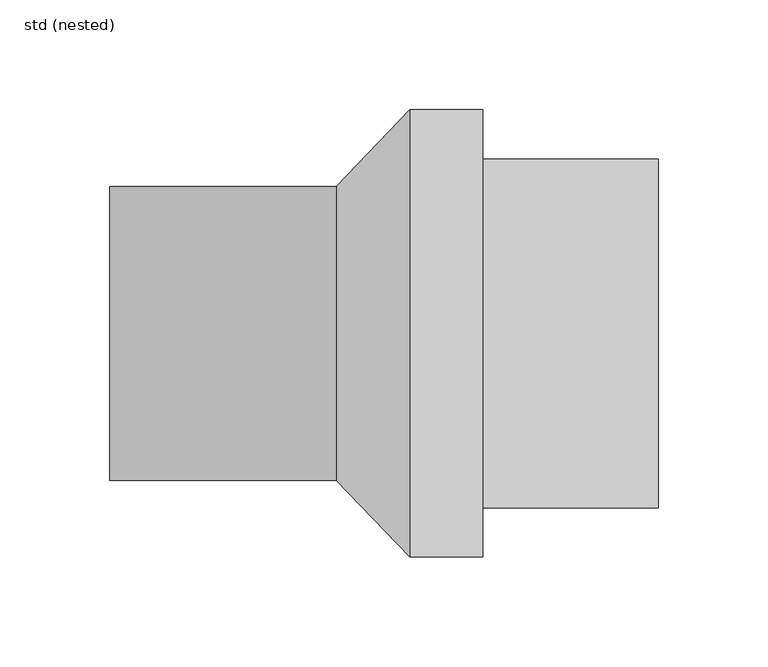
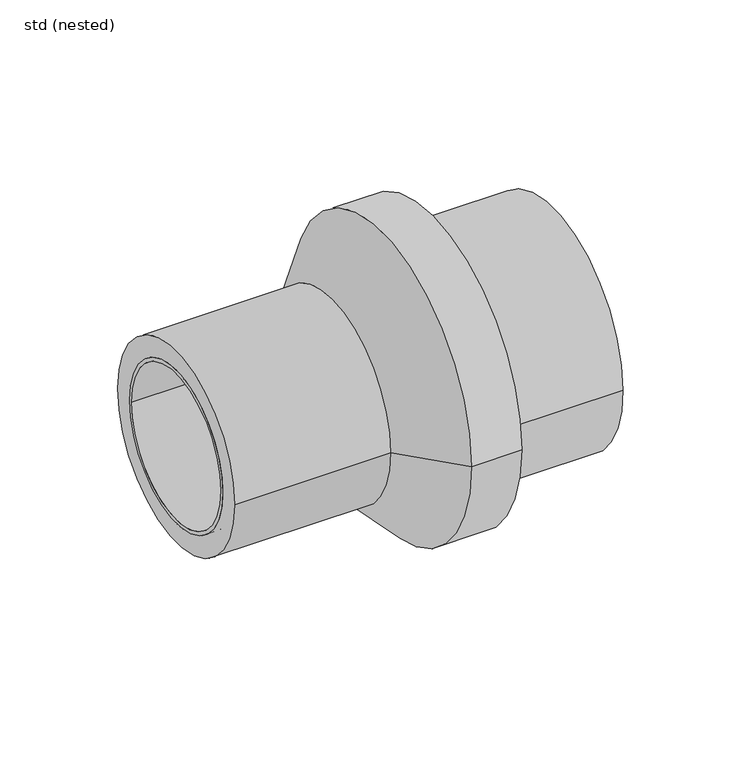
"""IFC4 building model written with IfcOpenShell, lengths in millimetres: pipe fitting geometry, ZZZ_do not use_PIF_ST_WPB_GM-X compound pipe reducer_ACO : std (nested)."""

from ifc_helpers import new_model, si_unit, point, frame, origin, origin_2d, place, context, project, spatial, polyline, circle_curve, trimmed, segment, composite_curve, outline, extrude, source, transform, mapped, element, save
from ifc_brep_helpers import plane_surface, cylinder_surface, revolved_surface, advanced_brep


def std_nested_e31ceb24(model_context):
    return source(origin(), model_context, "Body", "SolidModel", [
        advanced_brep(
        [(-241.7, -59.0, 0.0), (-241.7, 59.0, 0.0), (-213.0, 59.0, 0.0), (-213.0, -59.0, 0.0), (-250.0, 53.5, 0.0), (-250.0, -53.5, 0.0), (-250.0, -51.0, 0.0), (-250.0, 51.0, 0.0), (-180.0, 53.5, 0.0), (-180.0, -53.5, 0.0), (-180.0, 51.0, 0.0), (-180.0, -51.0, 0.0), (-241.7, 53.5, 0.0), (-241.7, -53.5, 0.0), (-213.0, -53.5, 0.0), (-213.0, 53.5, 0.0)],
        [
            (0, 1, circle_curve(frame((-241.7, 0.0, 0.0), z_axis=(1.0, 0.0, 0.0), x_axis=(0.0, -1.0, 0.0)), 59.0)),
            (1, 2),
            (2, 3, circle_curve(frame((-213.0, 0.0, 0.0), z_axis=(-1.0, 0.0, 0.0), x_axis=(0.0, -1.0, 0.0)), 59.0)),
            (3, 0),
            (1, 0, circle_curve(frame((-241.7, 0.0, 0.0), z_axis=(1.0, 0.0, 0.0), x_axis=(0.0, -1.0, 0.0)), 59.0)),
            (3, 2, circle_curve(frame((-213.0, 0.0, 0.0), z_axis=(-1.0, 0.0, 0.0), x_axis=(0.0, -1.0, 0.0)), 59.0)),
            (4, 5, circle_curve(frame((-250.0, 0.0, 0.0), z_axis=(-1.0, 0.0, 0.0), x_axis=(0.0, -1.0, 0.0)), 53.5)),
            (5, 4, circle_curve(frame((-250.0, 0.0, 0.0), z_axis=(-1.0, 0.0, 0.0), x_axis=(0.0, -1.0, 0.0)), 53.5)),
            (6, 7, circle_curve(frame((-250.0, 0.0, 0.0), z_axis=(1.0, 0.0, 0.0), x_axis=(0.0, -1.0, 0.0)), 51.0)),
            (7, 6, circle_curve(frame((-250.0, 0.0, 0.0), z_axis=(1.0, 0.0, 0.0), x_axis=(0.0, -1.0, 0.0)), 51.0)),
            (8, 9, circle_curve(frame((-180.0, 0.0, 0.0), z_axis=(1.0, 0.0, 0.0), x_axis=(0.0, -1.0, 0.0)), 53.5)),
            (9, 8, circle_curve(frame((-180.0, 0.0, 0.0), z_axis=(1.0, 0.0, 0.0), x_axis=(0.0, -1.0, 0.0)), 53.5)),
            (10, 11, circle_curve(frame((-180.0, 0.0, 0.0), z_axis=(-1.0, 0.0, 0.0), x_axis=(0.0, -1.0, 0.0)), 51.0)),
            (11, 10, circle_curve(frame((-180.0, 0.0, 0.0), z_axis=(-1.0, 0.0, 0.0), x_axis=(0.0, -1.0, 0.0)), 51.0)),
            (4, 12),
            (12, 13, circle_curve(frame((-241.7, 0.0, 0.0), z_axis=(-1.0, 0.0, 0.0), x_axis=(0.0, -1.0, 0.0)), 53.5)),
            (13, 5),
            (9, 14),
            (14, 15, circle_curve(frame((-213.0, 0.0, 0.0), z_axis=(1.0, 0.0, 0.0), x_axis=(0.0, -1.0, 0.0)), 53.5)),
            (15, 8),
            (13, 12, circle_curve(frame((-241.7, 0.0, 0.0), z_axis=(-1.0, 0.0, 0.0), x_axis=(0.0, -1.0, 0.0)), 53.5)),
            (15, 14, circle_curve(frame((-213.0, 0.0, 0.0), z_axis=(1.0, 0.0, 0.0), x_axis=(0.0, -1.0, 0.0)), 53.5)),
            (6, 11),
            (10, 7),
        ],
        [
            cylinder_surface(frame((-213.0, 0.0, 0.0), z_axis=(-1.0, 0.0, 0.0), x_axis=(0.0, -1.0, 0.0)), 59.0),
            plane_surface(frame((-250.0, -53.5, 0.0), z_axis=(-1.0, 0.0, 0.0), x_axis=(0.0, 0.0, 1.0))),
            plane_surface(frame((-180.0, -53.5, 0.0), z_axis=(1.0, 0.0, 0.0), x_axis=(0.0, 0.0, -1.0))),
            cylinder_surface(frame((-180.0, 0.0, 0.0), z_axis=(-1.0, 0.0, 0.0), x_axis=(0.0, -1.0, 0.0)), 53.5),
            revolved_surface(polyline([(-250.0, -51.0, 0.0), (-180.0, -51.0, 0.0)]), (-180.0, 0.0, 0.0), (-1.0, 0.0, 0.0)),
            plane_surface(frame((-241.7, -59.0, 0.0), z_axis=(-1.0, 0.0, 0.0), x_axis=(0.0, 0.0, 1.0))),
            plane_surface(frame((-213.0, -59.0, 0.0), z_axis=(1.0, 0.0, 0.0), x_axis=(0.0, 0.0, -1.0))),
        ],
        [
            (0, [[1, 2, 3, 4]]),
            (0, [[5, -4, 6, -2]]),
            (1, [[7, 8], [9, 10]]),
            (2, [[11, 12], [13, 14]]),
            (3, [[-7, 15, 16, 17]]),
            (3, [[-12, 18, 19, 20]]),
            (3, [[-8, -17, 21, -15]]),
            (3, [[-11, -20, 22, -18]]),
            (4, [[23, -13, 24, -9]]),
            (4, [[-23, -10, -24, -14]]),
            (5, [[-1, -5], [-16, -21]]),
            (6, [[-6, -3], [-19, -22]]),
        ],
    ),
        advanced_brep(
        [(-250.0, -67.0, 0.0), (-250.0, 67.0, 0.0), (-250.0, 53.5, 0.0), (-250.0, -53.5, 0.0), (-146.6666667, -67.0, 0.0), (-146.6666667, 67.0, 0.0), (-180.0, -53.5, 0.0), (-180.0, 53.5, 0.0), (-113.3333333, 102.0, 0.0), (-113.3333333, -102.0, 0.0), (-80.0, 102.0, 0.0), (-80.0, -102.0, 0.0)],
        [
            (0, 1, circle_curve(frame((-250.0, 0.0, 0.0), z_axis=(-1.0, 0.0, 0.0), x_axis=(0.0, 1.0, 0.0)), 67.0)),
            (1, 0, circle_curve(frame((-250.0, 0.0, 0.0), z_axis=(-1.0, 0.0, 0.0), x_axis=(0.0, 1.0, 0.0)), 67.0)),
            (2, 3, circle_curve(frame((-250.0, 0.0, 0.0), z_axis=(1.0, 0.0, 0.0), x_axis=(0.0, 1.0, 0.0)), 53.5)),
            (3, 2, circle_curve(frame((-250.0, 0.0, 0.0), z_axis=(1.0, 0.0, 0.0), x_axis=(0.0, 1.0, 0.0)), 53.5)),
            (0, 4),
            (4, 5, circle_curve(frame((-146.6666667, 0.0, 0.0), z_axis=(-1.0, 0.0, 0.0), x_axis=(0.0, 1.0, 0.0)), 67.0)),
            (5, 1),
            (5, 4, circle_curve(frame((-146.6666667, 0.0, 0.0), z_axis=(-1.0, 0.0, 0.0), x_axis=(0.0, 1.0, 0.0)), 67.0)),
            (6, 7, circle_curve(frame((-180.0, 0.0, 0.0), z_axis=(-1.0, 0.0, 0.0), x_axis=(0.0, 1.0, 0.0)), 53.5)),
            (7, 6, circle_curve(frame((-180.0, 0.0, 0.0), z_axis=(-1.0, 0.0, 0.0), x_axis=(0.0, 1.0, 0.0)), 53.5)),
            (6, 3),
            (2, 7),
            (5, 8),
            (8, 9, circle_curve(frame((-113.3333333, 0.0, 0.0), z_axis=(-1.0, 0.0, 0.0), x_axis=(0.0, -1.0, 0.0)), 102.0)),
            (9, 4),
            (9, 8, circle_curve(frame((-113.3333333, 0.0, 0.0), z_axis=(-1.0, 0.0, 0.0), x_axis=(0.0, 1.0, 0.0)), 102.0)),
            (10, 11, circle_curve(frame((-80.0, 0.0, 0.0), z_axis=(1.0, 0.0, 0.0), x_axis=(0.0, -1.0, 0.0)), 102.0)),
            (11, 10, circle_curve(frame((-80.0, 0.0, 0.0), z_axis=(1.0, 0.0, 0.0), x_axis=(0.0, -1.0, 0.0)), 102.0)),
            (10, 8),
            (9, 11),
        ],
        [
            plane_surface(frame((-250.0, 67.0, 0.0), z_axis=(-1.0, 0.0, 0.0), x_axis=(0.0, 0.0, -1.0))),
            cylinder_surface(frame((-146.6666667, 0.0, 0.0), z_axis=(-1.0, 0.0, 0.0), x_axis=(0.0, 1.0, 0.0)), 67.0),
            plane_surface(frame((-180.0, 53.5, 0.0), z_axis=(-1.0, 0.0, 0.0), x_axis=(0.0, 0.0, 1.0))),
            revolved_surface(polyline([(-250.0, 53.5, 0.0), (-180.0, 53.5, 0.0)]), (-180.0, 0.0, 0.0), (-1.0, 0.0, 0.0)),
            revolved_surface(polyline([(-146.6666667, 66.99999995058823, 0.0), (-113.3333333, 102.0, 0.0)]), (-210.4761905, 0.0, 0.0), (1.0, 0.0, 0.0)),
            plane_surface(frame((-80.0, -102.0, 0.0), z_axis=(1.0, 0.0, 0.0), x_axis=(0.0, 0.0, -1.0))),
            cylinder_surface(frame((-113.3333333, 0.0, 0.0), z_axis=(1.0, 0.0, 0.0), x_axis=(0.0, -1.0, 0.0)), 102.0),
        ],
        [
            (0, [[1, 2], [3, 4]]),
            (1, [[-1, 5, 6, 7]]),
            (1, [[-2, -7, 8, -5]]),
            (2, [[9, 10]]),
            (3, [[-9, 11, -3, 12]]),
            (3, [[-10, -12, -4, -11]]),
            (4, [[13, 14, 15, -8]]),
            (4, [[-13, -6, -15, 16]]),
            (5, [[17, 18]]),
            (6, [[-17, 19, -16, 20]]),
            (6, [[-18, -20, -14, -19]]),
        ],
    ),
        extrude(outline(composite_curve([segment(trimmed(circle_curve(origin_2d(), 79.5), [point((79.5, 0.0))], [point((-79.5, 0.0))], False, "CARTESIAN"), True, "CONTINUOUS"), segment(trimmed(circle_curve(origin_2d(), 79.5), [point((-79.5, 0.0))], [point((79.5, 0.0))], False, "CARTESIAN"), True, "CONTINUOUS")], self_intersect=False)), frame((-80.0, 0.0, 0.0), z_axis=(1.0, 0.0, 0.0), x_axis=(0.0, 1.0, 0.0)), (0.0, 0.0, 1.0), 80.0),
    ])


if __name__ == "__main__":
    model = new_model("IFC4")
    model_context = context("Model", 3, world=origin())
    ifc_project = project(units=[si_unit("LENGTHUNIT", "METRE", prefix="MILLI")], contexts=[model_context])
    site = spatial("IfcSite", under=ifc_project)
    building = spatial("IfcBuilding", under=site)
    placement = place(None, origin())
    std_nested_shape = std_nested_e31ceb24(model_context)
    element("IfcPipeFitting", 1, ObjectType="ZZZ_do not use_PIF_ST_WPB_GM-X compound pipe reducer_ACO : std (nested)", at=placement, inside=building, context=model_context, shape_type="MappedRepresentation", body=[
        mapped(std_nested_shape, transform((0.0, 0.0, 0.0), x_axis=(1.0, 0.0, 0.0), y_axis=(0.0, 1.0, 0.0), z_axis=(0.0, 0.0, 1.0))),
    ])
    save(model, "model.ifc")
